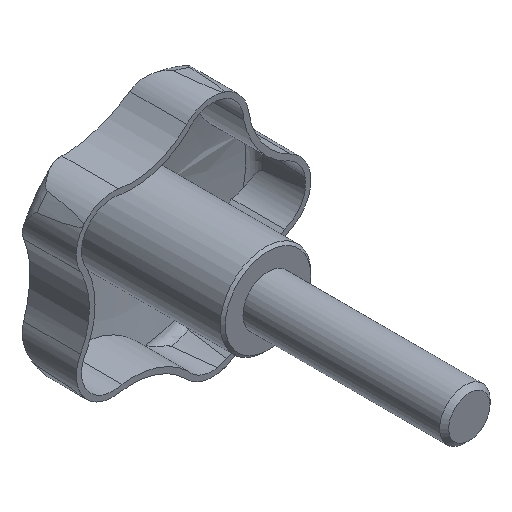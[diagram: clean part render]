
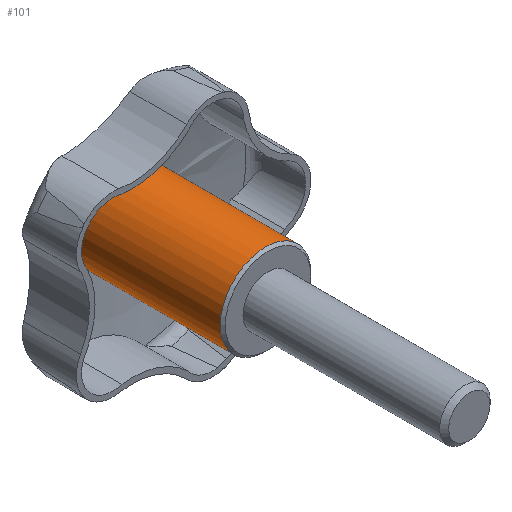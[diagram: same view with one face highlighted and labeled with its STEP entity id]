
A CAD part, isometric view. The second image highlights one B-rep face of the part: STEP entity #101.
In plain terms, the highlighted cylindrical face has radius 9 mm (diameter 18 mm), a full revolution.
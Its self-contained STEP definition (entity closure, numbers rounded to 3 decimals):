
#101 = ADVANCED_FACE( '', ( #189, #190 ), #191, .T. );
#189 = FACE_OUTER_BOUND( '', #315, .T. );
#190 = FACE_OUTER_BOUND( '', #316, .T. );
#191 = CYLINDRICAL_SURFACE( '', #317, 9. );
#315 = EDGE_LOOP( '', ( #608 ) );
#316 = EDGE_LOOP( '', ( #609 ) );
#317 = AXIS2_PLACEMENT_3D( '', #610, #611, #612 );
#608 = ORIENTED_EDGE( '', *, *, #973, .F. );
#609 = ORIENTED_EDGE( '', *, *, #917, .T. );
#610 = CARTESIAN_POINT( '', ( 0., -40., 0. ) );
#611 = DIRECTION( '', ( 0., 1., 0. ) );
#612 = DIRECTION( '', ( 0., 0., -1. ) );
#917 = EDGE_CURVE( '', #1115, #1115, #1116, .T. );
#973 = EDGE_CURVE( '', #1205, #1205, #1206, .T. );
#1115 = VERTEX_POINT( '', #1681 );
#1116 = CIRCLE( '', #1682, 9. );
#1205 = VERTEX_POINT( '', #2117 );
#1206 = CIRCLE( '', #2118, 9. );
#1681 = CARTESIAN_POINT( '', ( 0., 28.534, -9. ) );
#1682 = AXIS2_PLACEMENT_3D( '', #2339, #2340, #2341 );
#2117 = CARTESIAN_POINT( '', ( 0., 0.5, -9. ) );
#2118 = AXIS2_PLACEMENT_3D( '', #2393, #2394, #2395 );
#2339 = CARTESIAN_POINT( '', ( 0., 28.534, 0. ) );
#2340 = DIRECTION( '', ( 0., -1., 0. ) );
#2341 = DIRECTION( '', ( 0., 0., -1. ) );
#2393 = CARTESIAN_POINT( '', ( 0., 0.5, 0. ) );
#2394 = DIRECTION( '', ( 0., -1., 0. ) );
#2395 = DIRECTION( '', ( 0., 0., -1. ) );
